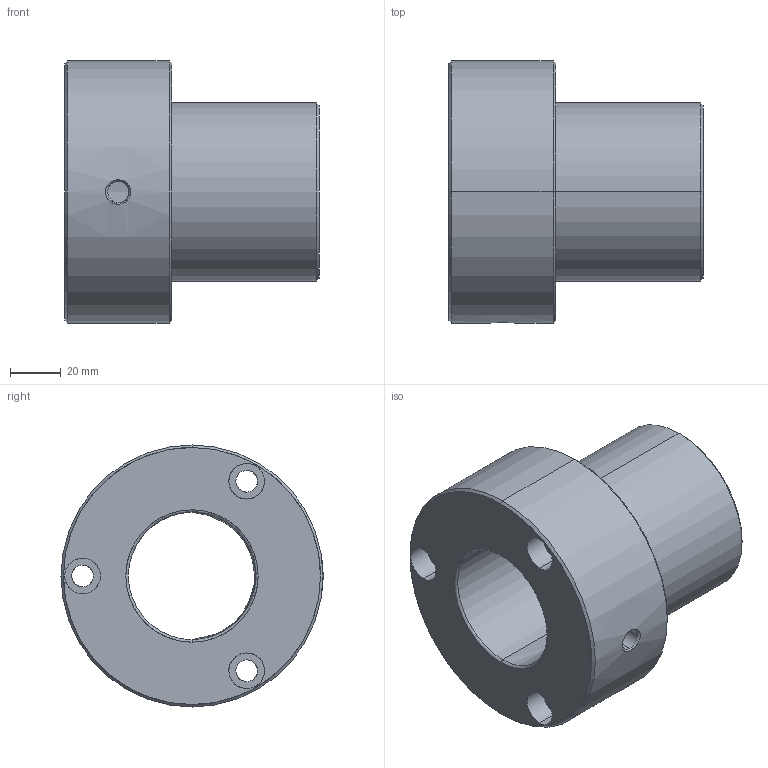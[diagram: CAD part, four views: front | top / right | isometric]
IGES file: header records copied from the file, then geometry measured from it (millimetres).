
Start section: START RECORD GO HERE.
Global section: file name: 345-50.igs; native system: DASSAULT SYSTEMES CATIA V5 R20 - www.3ds.com; preprocessor: CATIA Version 5 Release 20 ; author: Utente; organization: NB04-ASUS; date: 20201225.221142; units: millimetre
Bounding box: 100 x 103 x 103 mm (x, y, z)
Surface area: 58344 mm2 (no closed solid volume)
Topology: 0 solids, 0 shells, 39 faces, 294 edges, 294 vertices
Faces by surface type: revolution 32, plane 7
